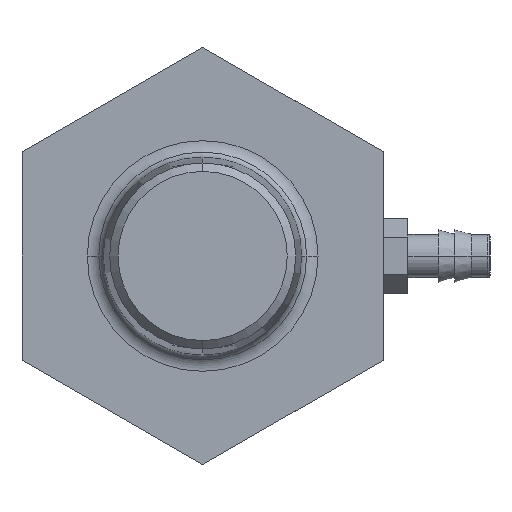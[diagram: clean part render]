
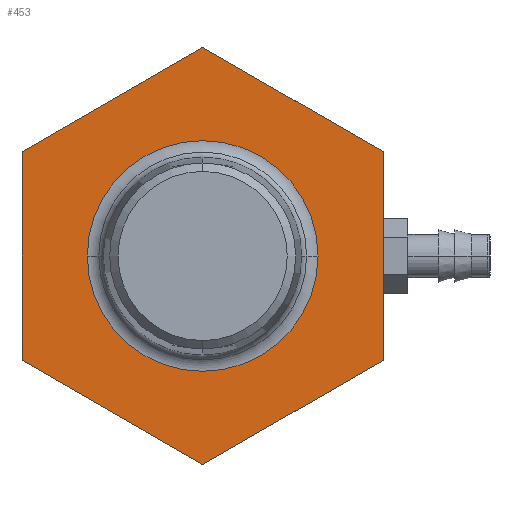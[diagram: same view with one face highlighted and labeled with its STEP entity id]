
A CAD part, left-side view. The second image highlights one B-rep face of the part: STEP entity #453.
In plain terms, the highlighted planar face has unit normal (-1, 0, 0).
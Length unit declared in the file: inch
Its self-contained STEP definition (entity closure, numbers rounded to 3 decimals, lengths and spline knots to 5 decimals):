
#203=DIRECTION('',(0.,0.866,-0.5));
#204=VECTOR('',#203,0.79386);
#205=CARTESIAN_POINT('',(-3.25,0.,0.79386));
#206=LINE('',#205,#204);
#207=DIRECTION('',(0.,0.866,0.5));
#208=VECTOR('',#207,0.79386);
#209=CARTESIAN_POINT('',(-3.25,-0.6875,0.39693));
#210=LINE('',#209,#208);
#211=DIRECTION('',(0.,0.,1.));
#212=VECTOR('',#211,0.79386);
#213=CARTESIAN_POINT('',(-3.25,-0.6875,-0.39693));
#214=LINE('',#213,#212);
#215=DIRECTION('',(0.,-0.866,0.5));
#216=VECTOR('',#215,0.79386);
#217=CARTESIAN_POINT('',(-3.25,0.,-0.79386));
#218=LINE('',#217,#216);
#219=DIRECTION('',(0.,-0.866,-0.5));
#220=VECTOR('',#219,0.79386);
#221=CARTESIAN_POINT('',(-3.25,0.6875,-0.39693));
#222=LINE('',#221,#220);
#223=DIRECTION('',(0.,0.,-1.));
#224=VECTOR('',#223,0.79386);
#225=CARTESIAN_POINT('',(-3.25,0.6875,0.39693));
#226=LINE('',#225,#224);
#227=CARTESIAN_POINT('',(-3.25,0.,0.));
#228=DIRECTION('',(1.,0.,0.));
#229=DIRECTION('',(0.,0.,1.));
#230=AXIS2_PLACEMENT_3D('',#227,#228,#229);
#232=CARTESIAN_POINT('',(-3.25,0.,0.));
#233=DIRECTION('',(1.,0.,0.));
#234=DIRECTION('',(0.,1.,0.));
#235=AXIS2_PLACEMENT_3D('',#232,#233,#234);
#237=CARTESIAN_POINT('',(-3.25,0.,0.));
#238=DIRECTION('',(1.,0.,0.));
#239=DIRECTION('',(0.,-1.,0.));
#240=AXIS2_PLACEMENT_3D('',#237,#238,#239);
#376=CARTESIAN_POINT('',(-3.25,0.,0.79386));
#377=CARTESIAN_POINT('',(-3.25,0.6875,0.39693));
#378=VERTEX_POINT('',#376);
#379=VERTEX_POINT('',#377);
#384=CARTESIAN_POINT('',(-3.25,0.6875,-0.39693));
#385=VERTEX_POINT('',#384);
#386=CARTESIAN_POINT('',(-3.25,-0.6875,0.39693));
#387=VERTEX_POINT('',#386);
#390=CARTESIAN_POINT('',(-3.25,0.,-0.79386));
#391=VERTEX_POINT('',#390);
#392=CARTESIAN_POINT('',(-3.25,-0.6875,-0.39693));
#393=VERTEX_POINT('',#392);
#400=CARTESIAN_POINT('',(-3.25,0.43896,0.));
#402=VERTEX_POINT('',#400);
#406=CARTESIAN_POINT('',(-3.25,-0.43896,0.));
#407=VERTEX_POINT('',#406);
#412=CARTESIAN_POINT('',(-3.25,0.,0.43896));
#413=VERTEX_POINT('',#412);
#426=CARTESIAN_POINT('',(-3.25,0.,0.));
#427=DIRECTION('',(-1.,0.,0.));
#428=DIRECTION('',(0.,0.,1.));
#429=AXIS2_PLACEMENT_3D('',#426,#427,#428);
#430=PLANE('',#429);
#432=ORIENTED_EDGE('',*,*,#431,.F.);
#434=ORIENTED_EDGE('',*,*,#433,.F.);
#436=ORIENTED_EDGE('',*,*,#435,.F.);
#438=ORIENTED_EDGE('',*,*,#437,.F.);
#440=ORIENTED_EDGE('',*,*,#439,.F.);
#442=ORIENTED_EDGE('',*,*,#441,.F.);
#443=EDGE_LOOP('',(#432,#434,#436,#438,#440,#442));
#444=FACE_OUTER_BOUND('',#443,.F.);
#446=ORIENTED_EDGE('',*,*,#445,.F.);
#448=ORIENTED_EDGE('',*,*,#447,.F.);
#450=ORIENTED_EDGE('',*,*,#449,.F.);
#451=EDGE_LOOP('',(#446,#448,#450));
#452=FACE_BOUND('',#451,.F.);
#231=CIRCLE('',#230,0.43896);
#236=CIRCLE('',#235,0.43896);
#241=CIRCLE('',#240,0.43896);
#431=EDGE_CURVE('',#378,#379,#206,.T.);
#433=EDGE_CURVE('',#387,#378,#210,.T.);
#435=EDGE_CURVE('',#393,#387,#214,.T.);
#437=EDGE_CURVE('',#391,#393,#218,.T.);
#439=EDGE_CURVE('',#385,#391,#222,.T.);
#441=EDGE_CURVE('',#379,#385,#226,.T.);
#445=EDGE_CURVE('',#413,#407,#231,.T.);
#447=EDGE_CURVE('',#402,#413,#236,.T.);
#449=EDGE_CURVE('',#407,#402,#241,.T.);
#453=ADVANCED_FACE('',(#444,#452),#430,.T.);
